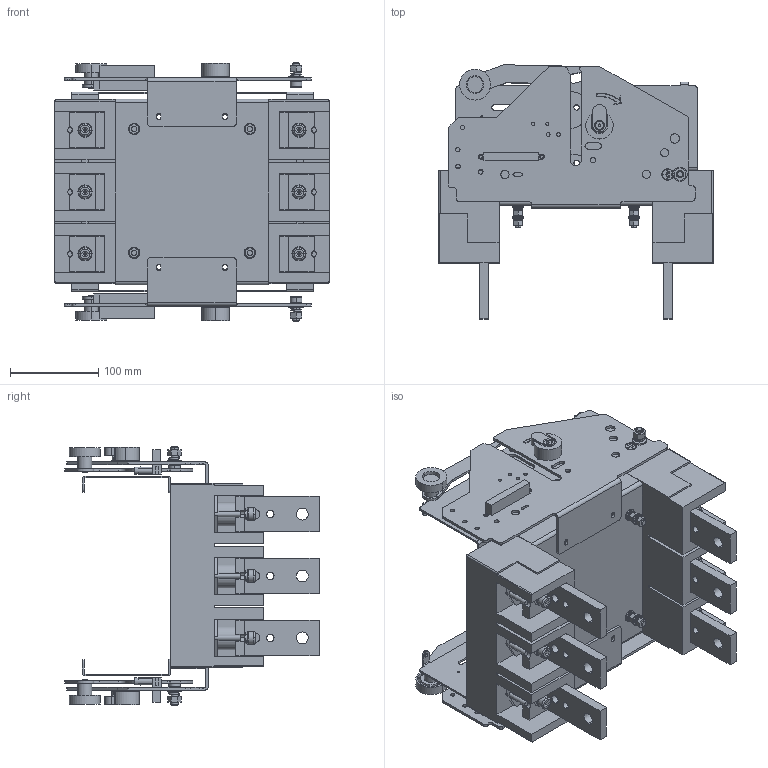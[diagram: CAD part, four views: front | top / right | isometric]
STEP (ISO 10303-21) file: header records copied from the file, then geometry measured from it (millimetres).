
FILE_DESCRIPTION (( 'STEP AP214' ), '1' );
FILE_NAME ('TGM1NE-DOB-800.stp', '2026-07-06T06:53:10', ( '' ), ( '' ), 'SwSTEP 2.0', 'SolidWorks 2024', '' );
FILE_SCHEMA (( 'AUTOMOTIVE_DESIGN' ));
Length unit declared in the file: millimetre
Products named in the file (2): TGM1NE-DOB-800
Assembly tree (1 placements, depth 2):
  TGM1NE-DOB-800
    TGM1NE-DOB-800
Bounding box: 310 x 287.38 x 292 mm (x, y, z)
Volume: 3075017.9 mm3; surface area: 886872.9 mm2
Topology: 77 solids, 95 shells, 2646 faces, 6801 edges, 4477 vertices
Faces by surface type: plane 1296, cylinder 956, bspline 220, torus 100, cone 60, sphere 14
Entity records: 90689 total; most frequent: CARTESIAN_POINT 24390, ORIENTED_EDGE 13554, DIRECTION 13478, EDGE_CURVE 6777, AXIS2_PLACEMENT_3D 4777, VERTEX_POINT 4461, VECTOR 3924, LINE 3924
